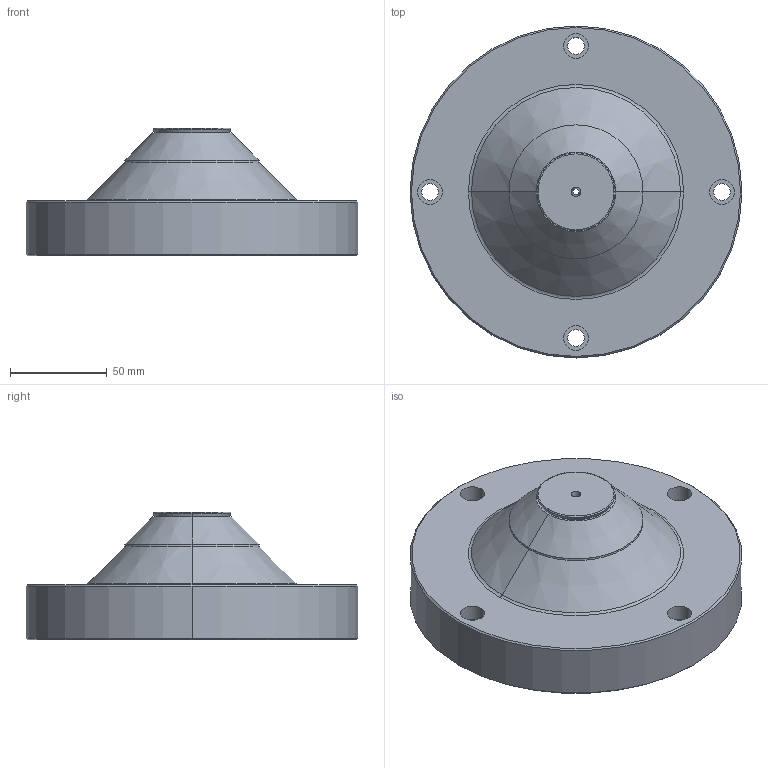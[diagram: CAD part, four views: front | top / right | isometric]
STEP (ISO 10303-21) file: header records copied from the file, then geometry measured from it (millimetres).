
FILE_DESCRIPTION((''),'2;1');
FILE_NAME('RMC-81302','2007-10-01T',('glafferty'),('Pleasant Precision, Inc. (419)675-0556'),'PRO/ENGINEER BY PARAMETRIC TECHNOLOGY CORPORATION, 2006080','PRO/ENGINEER BY PARAMETRIC TECHNOLOGY CORPORATION, 2006080','');
FILE_SCHEMA(('CONFIG_CONTROL_DESIGN'));
Length unit declared in the file: inch
Products named in the file (1): RMC-81302
Bounding box: 171.45 x 171.45 x 66.04 mm (x, y, z)
Volume: 612877.3 mm3; surface area: 75429.1 mm2
Topology: 1 solids, 1 shells, 54 faces, 116 edges, 70 vertices
Faces by surface type: cylinder 20, cone 16, plane 8, torus 8, sphere 2
Entity records: 1544 total; most frequent: DIRECTION 304, CARTESIAN_POINT 240, ORIENTED_EDGE 232, AXIS2_PLACEMENT_3D 134, EDGE_CURVE 116, CIRCLE 80, VERTEX_POINT 70, EDGE_LOOP 70
